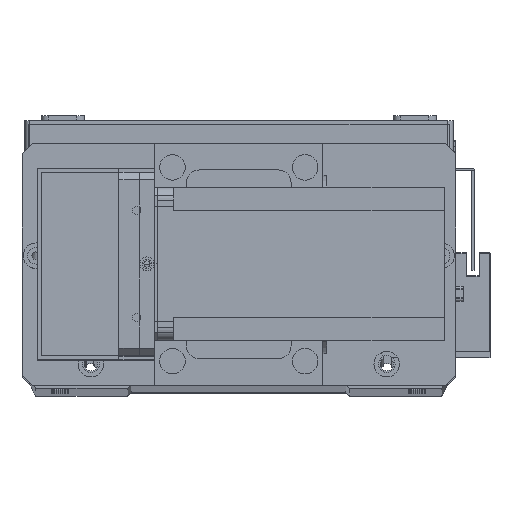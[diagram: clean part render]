
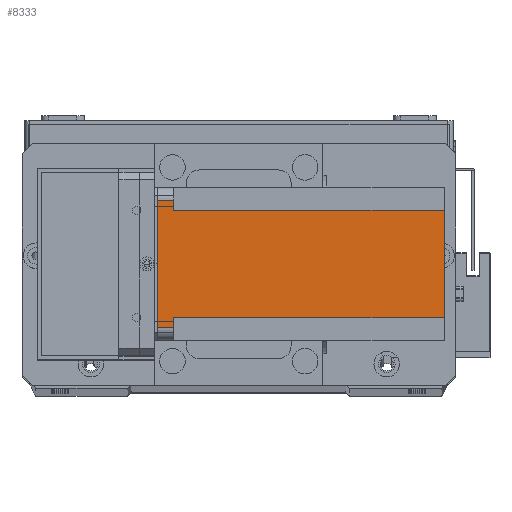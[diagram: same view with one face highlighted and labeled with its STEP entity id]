
A CAD part, top view. The second image highlights one B-rep face of the part: STEP entity #8333.
In plain terms, the highlighted planar face has unit normal (0, 0, 1) as drawn and (-1, 0, 0) by its records, which use the part's own axes.
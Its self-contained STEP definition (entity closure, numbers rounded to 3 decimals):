
#1386 = DIRECTION ( 'NONE',  ( 0., 1., 0. ) ) ;
#1506 = CARTESIAN_POINT ( 'NONE',  ( 0., 5., -112.5 ) ) ;
#1686 = VECTOR ( 'NONE', #5926, 1000. ) ;
#1727 = EDGE_CURVE ( 'NONE', #23887, #23706, #28531, .T. ) ;
#1917 = DIRECTION ( 'NONE',  ( 0., -1., 0. ) ) ;
#2119 = EDGE_CURVE ( 'NONE', #20865, #23706, #30854, .T. ) ;
#2716 = CARTESIAN_POINT ( 'NONE',  ( 0., 55., 0. ) ) ;
#2788 = CARTESIAN_POINT ( 'NONE',  ( 0., 51., -112.5 ) ) ;
#3021 = DIRECTION ( 'NONE',  ( 0., 1., 0. ) ) ;
#3353 = VECTOR ( 'NONE', #16907, 1000. ) ;
#4054 = EDGE_LOOP ( 'NONE', ( #14206, #24831, #28906, #20037, #23528, #16651, #4849, #17795 ) ) ;
#4103 = EDGE_CURVE ( 'NONE', #20211, #19055, #28030, .T. ) ;
#4849 = ORIENTED_EDGE ( 'NONE', *, *, #2119, .T. ) ;
#5821 = CARTESIAN_POINT ( 'NONE',  ( 0., 55., -112.5 ) ) ;
#5926 = DIRECTION ( 'NONE',  ( 0., 0., -1. ) ) ;
#7077 = EDGE_CURVE ( 'NONE', #19398, #23887, #11346, .T. ) ;
#7321 = VECTOR ( 'NONE', #1917, 1000. ) ;
#7853 = DIRECTION ( 'NONE',  ( 0., -1., 0. ) ) ;
#7918 = CARTESIAN_POINT ( 'NONE',  ( 0., 9., -112.5 ) ) ;
#8333 = ADVANCED_FACE ( 'NONE', ( #14463 ), #19867, .T. ) ;
#8381 = LINE ( 'NONE', #23218, #21812 ) ;
#9532 = CARTESIAN_POINT ( 'NONE',  ( 0., 0., 0. ) ) ;
#9625 = VECTOR ( 'NONE', #19266, 1000. ) ;
#10387 = CARTESIAN_POINT ( 'NONE',  ( 0., 0., -112.5 ) ) ;
#10746 = VECTOR ( 'NONE', #7853, 1000. ) ;
#11346 = LINE ( 'NONE', #31622, #16478 ) ;
#11366 = VERTEX_POINT ( 'NONE', #19757 ) ;
#13469 = CARTESIAN_POINT ( 'NONE',  ( 0., 5., 0. ) ) ;
#14097 = LINE ( 'NONE', #9532, #7321 ) ;
#14206 = ORIENTED_EDGE ( 'NONE', *, *, #7077, .F. ) ;
#14463 = FACE_OUTER_BOUND ( 'NONE', #4054, .T. ) ;
#14674 = VECTOR ( 'NONE', #31066, 1000. ) ;
#14966 = CARTESIAN_POINT ( 'NONE',  ( 0., 0., -112.5 ) ) ;
#15234 = LINE ( 'NONE', #22086, #3353 ) ;
#16478 = VECTOR ( 'NONE', #1386, 1000. ) ;
#16651 = ORIENTED_EDGE ( 'NONE', *, *, #17917, .F. ) ;
#16907 = DIRECTION ( 'NONE',  ( 0., 0., 1. ) ) ;
#17451 = DIRECTION ( 'NONE',  ( 0., -1., 0. ) ) ;
#17795 = ORIENTED_EDGE ( 'NONE', *, *, #1727, .F. ) ;
#17917 = EDGE_CURVE ( 'NONE', #20865, #11366, #15234, .T. ) ;
#19055 = VERTEX_POINT ( 'NONE', #22017 ) ;
#19266 = DIRECTION ( 'NONE',  ( 0., 0., 1. ) ) ;
#19398 = VERTEX_POINT ( 'NONE', #26203 ) ;
#19545 = AXIS2_PLACEMENT_3D ( 'NONE', #14966, #32552, #17451 ) ;
#19575 = CARTESIAN_POINT ( 'NONE',  ( 0., 9., -6.5 ) ) ;
#19757 = CARTESIAN_POINT ( 'NONE',  ( 0., 51., -6.5 ) ) ;
#19867 = PLANE ( 'NONE',  #19545 ) ;
#20037 = ORIENTED_EDGE ( 'NONE', *, *, #4103, .T. ) ;
#20211 = VERTEX_POINT ( 'NONE', #2716 ) ;
#20865 = VERTEX_POINT ( 'NONE', #2788 ) ;
#21812 = VECTOR ( 'NONE', #3021, 1000. ) ;
#22017 = CARTESIAN_POINT ( 'NONE',  ( 0., 55., -6.5 ) ) ;
#22086 = CARTESIAN_POINT ( 'NONE',  ( 0., 51., -112.5 ) ) ;
#22351 = EDGE_CURVE ( 'NONE', #20211, #30439, #14097, .T. ) ;
#23218 = CARTESIAN_POINT ( 'NONE',  ( 0., 60., -6.5 ) ) ;
#23528 = ORIENTED_EDGE ( 'NONE', *, *, #24038, .F. ) ;
#23706 = VERTEX_POINT ( 'NONE', #26457 ) ;
#23887 = VERTEX_POINT ( 'NONE', #19575 ) ;
#24038 = EDGE_CURVE ( 'NONE', #11366, #19055, #8381, .T. ) ;
#24662 = LINE ( 'NONE', #1506, #9625 ) ;
#24831 = ORIENTED_EDGE ( 'NONE', *, *, #26996, .T. ) ;
#26203 = CARTESIAN_POINT ( 'NONE',  ( 0., 5., -6.5 ) ) ;
#26457 = CARTESIAN_POINT ( 'NONE',  ( 0., 9., -112.5 ) ) ;
#26996 = EDGE_CURVE ( 'NONE', #19398, #30439, #24662, .T. ) ;
#28030 = LINE ( 'NONE', #5821, #14674 ) ;
#28531 = LINE ( 'NONE', #7918, #1686 ) ;
#28906 = ORIENTED_EDGE ( 'NONE', *, *, #22351, .F. ) ;
#30439 = VERTEX_POINT ( 'NONE', #13469 ) ;
#30854 = LINE ( 'NONE', #10387, #10746 ) ;
#31066 = DIRECTION ( 'NONE',  ( 0., 0., -1. ) ) ;
#31622 = CARTESIAN_POINT ( 'NONE',  ( 0., 0., -6.5 ) ) ;
#32552 = DIRECTION ( 'NONE',  ( -1., 0., 0. ) ) ;
